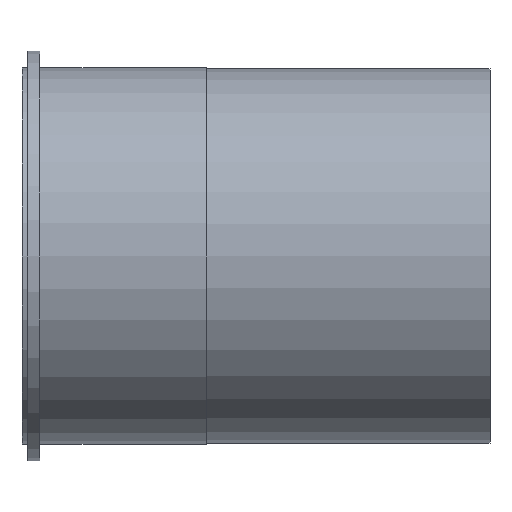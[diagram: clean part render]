
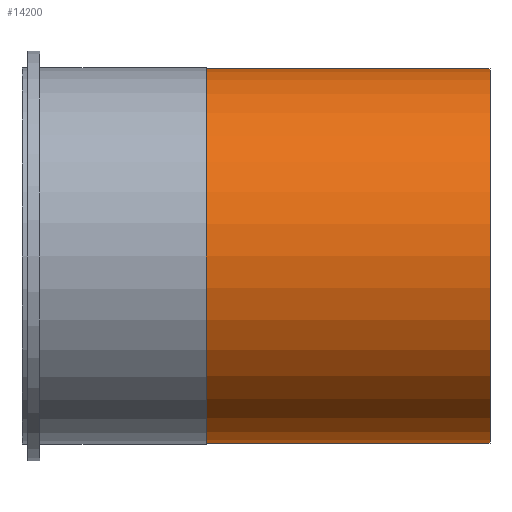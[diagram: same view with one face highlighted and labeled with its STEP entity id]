
A CAD part, front view. The second image highlights one B-rep face of the part: STEP entity #14200.
In plain terms, the highlighted cylindrical face has radius 99.949 mm (diameter 199.898 mm), a full revolution.
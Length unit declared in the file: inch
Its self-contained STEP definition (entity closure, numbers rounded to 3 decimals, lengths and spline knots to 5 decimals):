
#14169=CARTESIAN_POINT('',(3.88,3.935,0.0));
#14170=VERTEX_POINT('',#14169);
#14171=CARTESIAN_POINT('',(3.88,0.0,0.0));
#14172=DIRECTION('',(1.0,0.0,0.0));
#14173=DIRECTION('',(0.0,1.0,0.0));
#14174=AXIS2_PLACEMENT_3D('',#14171,#14172,#14173);
#14175=CIRCLE('',#14174,3.935);
#14176=EDGE_CURVE('',#14170,#14170,#14175,.T.);
#14181=CARTESIAN_POINT('',(6.86126,0.0,0.0));
#14182=DIRECTION('',(1.0,0.0,0.0));
#14183=DIRECTION('',(0.0,1.0,0.0));
#14184=AXIS2_PLACEMENT_3D('',#14181,#14182,#14183);
#14185=CYLINDRICAL_SURFACE('',#14184,3.935);
#14186=CARTESIAN_POINT('',(9.84252,3.935,0.0));
#14187=VERTEX_POINT('',#14186);
#14188=CARTESIAN_POINT('',(9.84252,0.0,0.0));
#14189=DIRECTION('',(1.0,0.0,0.0));
#14190=DIRECTION('',(0.0,1.0,0.0));
#14191=AXIS2_PLACEMENT_3D('',#14188,#14189,#14190);
#14192=CIRCLE('',#14191,3.935);
#14193=EDGE_CURVE('',#14187,#14187,#14192,.T.);
#14194=ORIENTED_EDGE('',*,*,#14193,.F.);
#14195=EDGE_LOOP('',(#14194));
#14196=FACE_OUTER_BOUND('',#14195,.T.);
#14197=ORIENTED_EDGE('',*,*,#14176,.T.);
#14198=EDGE_LOOP('',(#14197));
#14199=FACE_BOUND('',#14198,.T.);
#14200=ADVANCED_FACE('',(#14196,#14199),#14185,.T.);
